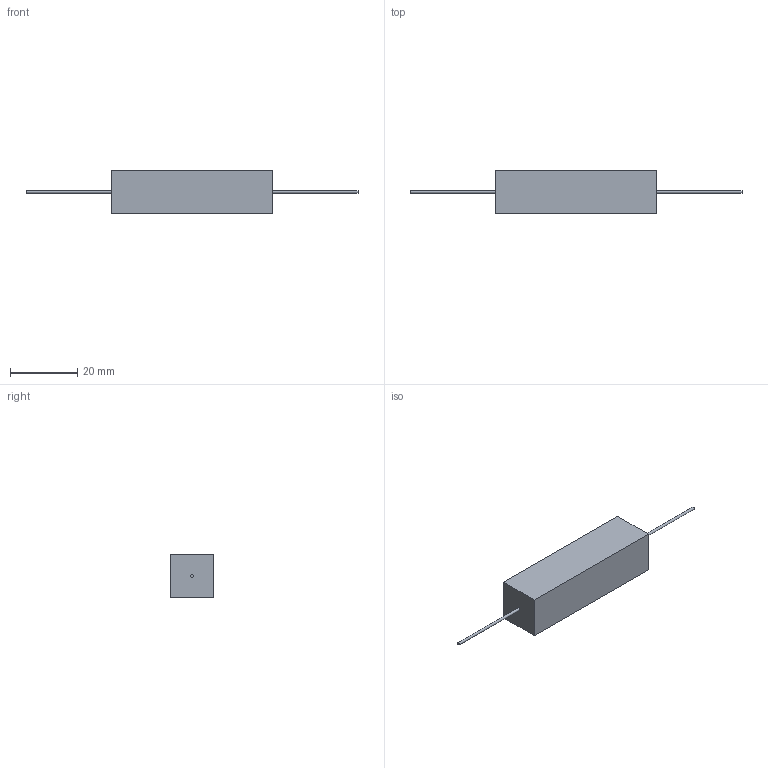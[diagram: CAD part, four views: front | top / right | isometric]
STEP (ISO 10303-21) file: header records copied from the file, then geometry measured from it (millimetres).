
FILE_DESCRIPTION(/* description */ (''),/* implementation_level */ '2;1');
FILE_NAME(/* name */ 'C:\Users\mulla\Documents\SEI Models\Inventor Files\CB\CB15_stp.stp',/* time_stamp */ '2019-06-27T14:44:03-04:00',/* author */ ('mulla'),/* organization */ (''),/* preprocessor_version */ 'ST-DEVELOPER v16.1',/* originating_system */ 'Autodesk Inventor 2016',/* authorisation */ '');
FILE_SCHEMA (('AUTOMOTIVE_DESIGN { 1 0 10303 214 3 1 1 }'));
Length unit declared in the file: millimetre
Products named in the file (1): CB15
Bounding box: 98.8 x 13 x 13 mm (x, y, z)
Volume: 8137.5 mm3; surface area: 2963.7 mm2
Topology: 3 solids, 3 shells, 12 faces, 18 edges, 12 vertices
Faces by surface type: plane 10, cylinder 2
Full cylindrical faces by diameter (mm): 0.8 x2
Entity records: 278 total; most frequent: DIRECTION 46, CARTESIAN_POINT 41, ORIENTED_EDGE 32, AXIS2_PLACEMENT_3D 17, EDGE_CURVE 16, EDGE_LOOP 14, FACE_OUTER_BOUND 12, LINE 12
